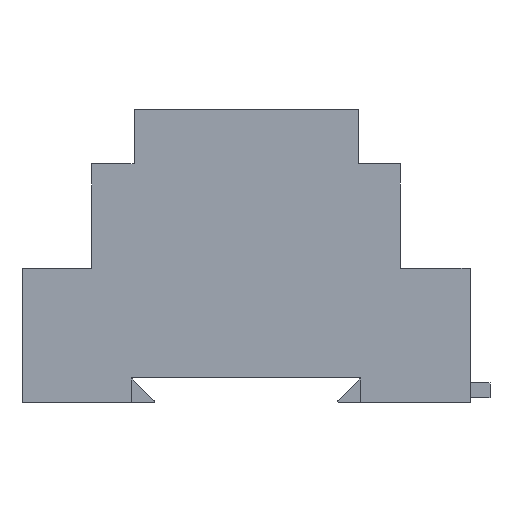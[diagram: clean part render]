
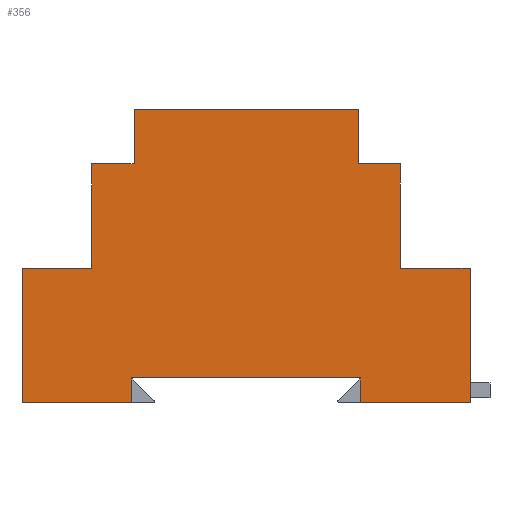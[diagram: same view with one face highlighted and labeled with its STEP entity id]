
A CAD part, left-side view. The second image highlights one B-rep face of the part: STEP entity #356.
In plain terms, the highlighted planar face has unit normal (-1, 0, 0).
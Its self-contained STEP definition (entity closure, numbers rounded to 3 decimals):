
#166 = ORIENTED_EDGE ( 'NONE', *, *, #167, .F. ) ;
#167 = EDGE_CURVE ( 'NONE', #361, #178, #1560, .T. ) ;
#170 = ORIENTED_EDGE ( 'NONE', *, *, #171, .F. ) ;
#171 = EDGE_CURVE ( 'NONE', #172, #182, #1552, .T. ) ;
#172 = VERTEX_POINT ( 'NONE', #1548 ) ;
#173 = ORIENTED_EDGE ( 'NONE', *, *, #174, .T. ) ;
#174 = EDGE_CURVE ( 'NONE', #172, #175, #1547, .T. ) ;
#175 = VERTEX_POINT ( 'NONE', #1542 ) ;
#176 = ORIENTED_EDGE ( 'NONE', *, *, #177, .T. ) ;
#177 = EDGE_CURVE ( 'NONE', #175, #178, #1541, .T. ) ;
#178 = VERTEX_POINT ( 'NONE', #1537 ) ;
#179 = ORIENTED_EDGE ( 'NONE', *, *, #180, .F. ) ;
#180 = EDGE_CURVE ( 'NONE', #182, #184, #1536, .T. ) ;
#182 = VERTEX_POINT ( 'NONE', #1532 ) ;
#183 = EDGE_CURVE ( 'NONE', #184, #406, #1594, .T. ) ;
#184 = VERTEX_POINT ( 'NONE', #1590 ) ;
#185 = ORIENTED_EDGE ( 'NONE', *, *, #183, .F. ) ;
#307 = VERTEX_POINT ( 'NONE', #1770 ) ;
#330 = ORIENTED_EDGE ( 'NONE', *, *, #331, .F. ) ;
#331 = EDGE_CURVE ( 'NONE', #332, #416, #1804, .T. ) ;
#332 = VERTEX_POINT ( 'NONE', #1800 ) ;
#333 = VERTEX_POINT ( 'NONE', #1799 ) ;
#356 = ADVANCED_FACE ( 'NONE', ( #1820 ), #1819, .T. ) ;
#357 = EDGE_LOOP ( 'NONE', ( #358, #362, #408, #410, #411, #414, #330, #393, #395, #398, #401, #404, #185, #179, #170, #173, #176, #166 ) ) ;
#358 = ORIENTED_EDGE ( 'NONE', *, *, #359, .F. ) ;
#359 = EDGE_CURVE ( 'NONE', #360, #361, #1877, .T. ) ;
#360 = VERTEX_POINT ( 'NONE', #1873 ) ;
#361 = VERTEX_POINT ( 'NONE', #1872 ) ;
#362 = ORIENTED_EDGE ( 'NONE', *, *, #407, .T. ) ;
#363 = VERTEX_POINT ( 'NONE', #1871 ) ;
#365 = EDGE_CURVE ( 'NONE', #307, #366, #1870, .T. ) ;
#366 = VERTEX_POINT ( 'NONE', #1866 ) ;
#393 = ORIENTED_EDGE ( 'NONE', *, *, #394, .F. ) ;
#394 = EDGE_CURVE ( 'NONE', #333, #332, #1891, .T. ) ;
#395 = ORIENTED_EDGE ( 'NONE', *, *, #396, .F. ) ;
#396 = EDGE_CURVE ( 'NONE', #397, #333, #1887, .T. ) ;
#397 = VERTEX_POINT ( 'NONE', #1882 ) ;
#398 = ORIENTED_EDGE ( 'NONE', *, *, #399, .F. ) ;
#399 = EDGE_CURVE ( 'NONE', #400, #397, #1883, .T. ) ;
#400 = VERTEX_POINT ( 'NONE', #1939 ) ;
#401 = ORIENTED_EDGE ( 'NONE', *, *, #402, .F. ) ;
#402 = EDGE_CURVE ( 'NONE', #403, #400, #1938, .T. ) ;
#403 = VERTEX_POINT ( 'NONE', #1934 ) ;
#404 = ORIENTED_EDGE ( 'NONE', *, *, #405, .F. ) ;
#405 = EDGE_CURVE ( 'NONE', #406, #403, #1933, .T. ) ;
#406 = VERTEX_POINT ( 'NONE', #1929 ) ;
#407 = EDGE_CURVE ( 'NONE', #360, #363, #1928, .T. ) ;
#408 = ORIENTED_EDGE ( 'NONE', *, *, #409, .F. ) ;
#409 = EDGE_CURVE ( 'NONE', #366, #363, #1923, .T. ) ;
#410 = ORIENTED_EDGE ( 'NONE', *, *, #365, .F. ) ;
#411 = ORIENTED_EDGE ( 'NONE', *, *, #412, .F. ) ;
#412 = EDGE_CURVE ( 'NONE', #413, #307, #1919, .T. ) ;
#413 = VERTEX_POINT ( 'NONE', #1915 ) ;
#414 = ORIENTED_EDGE ( 'NONE', *, *, #415, .F. ) ;
#415 = EDGE_CURVE ( 'NONE', #416, #413, #1914, .T. ) ;
#416 = VERTEX_POINT ( 'NONE', #1974 ) ;
#1532 = CARTESIAN_POINT ( 'NONE',  ( 0., 90., 0. ) ) ;
#1533 = DIRECTION ( 'NONE',  ( 0., 0., 1. ) ) ;
#1534 = VECTOR ( 'NONE', #1533, 1000. ) ;
#1535 = CARTESIAN_POINT ( 'NONE',  ( 0., 90., 0. ) ) ;
#1536 = LINE ( 'NONE', #1535, #1534 ) ;
#1537 = CARTESIAN_POINT ( 'NONE',  ( 0., 68., 5. ) ) ;
#1538 = DIRECTION ( 'NONE',  ( 0., 0., 1. ) ) ;
#1539 = VECTOR ( 'NONE', #1538, 1000. ) ;
#1540 = CARTESIAN_POINT ( 'NONE',  ( 0., 68., -19.554 ) ) ;
#1541 = LINE ( 'NONE', #1540, #1539 ) ;
#1542 = CARTESIAN_POINT ( 'NONE',  ( 0., 68., 0.3 ) ) ;
#1543 = DIRECTION ( 'NONE',  ( 0., 0., 1. ) ) ;
#1544 = DIRECTION ( 'NONE',  ( -1., 0., 0. ) ) ;
#1545 = CARTESIAN_POINT ( 'NONE',  ( 0., 68.3, 0.3 ) ) ;
#1546 = AXIS2_PLACEMENT_3D ( 'NONE', #1545, #1544, #1543 ) ;
#1547 = CIRCLE ( 'NONE', #1546, 0.3 ) ;
#1548 = CARTESIAN_POINT ( 'NONE',  ( 0., 68.3, 0. ) ) ;
#1549 = DIRECTION ( 'NONE',  ( 0., 1., 0. ) ) ;
#1550 = VECTOR ( 'NONE', #1549, 1000. ) ;
#1551 = CARTESIAN_POINT ( 'NONE',  ( 0., 63., 0. ) ) ;
#1552 = LINE ( 'NONE', #1551, #1550 ) ;
#1553 = DIRECTION ( 'NONE',  ( 0., 1., 0. ) ) ;
#1554 = VECTOR ( 'NONE', #1553, 1000. ) ;
#1555 = CARTESIAN_POINT ( 'NONE',  ( 0., 22., 5. ) ) ;
#1560 = LINE ( 'NONE', #1555, #1554 ) ;
#1590 = CARTESIAN_POINT ( 'NONE',  ( 0., 90., 27. ) ) ;
#1591 = DIRECTION ( 'NONE',  ( 0., -1., 0. ) ) ;
#1592 = VECTOR ( 'NONE', #1591, 1000. ) ;
#1593 = CARTESIAN_POINT ( 'NONE',  ( 0., 90., 27. ) ) ;
#1594 = LINE ( 'NONE', #1593, #1592 ) ;
#1770 = CARTESIAN_POINT ( 'NONE',  ( 0., 0., 27. ) ) ;
#1799 = CARTESIAN_POINT ( 'NONE',  ( 0., 22.5, 59. ) ) ;
#1800 = CARTESIAN_POINT ( 'NONE',  ( 0., 22.5, 48. ) ) ;
#1801 = DIRECTION ( 'NONE',  ( 0., -1., 0. ) ) ;
#1802 = VECTOR ( 'NONE', #1801, 1000. ) ;
#1803 = CARTESIAN_POINT ( 'NONE',  ( 0., 14., 48. ) ) ;
#1804 = LINE ( 'NONE', #1803, #1802 ) ;
#1819 = PLANE ( 'NONE',  #1881 ) ;
#1820 = FACE_OUTER_BOUND ( 'NONE', #357, .T. ) ;
#1866 = CARTESIAN_POINT ( 'NONE',  ( 0., 0., 0. ) ) ;
#1867 = DIRECTION ( 'NONE',  ( 0., 0., -1. ) ) ;
#1868 = VECTOR ( 'NONE', #1867, 1000. ) ;
#1869 = CARTESIAN_POINT ( 'NONE',  ( 0., 0., 0. ) ) ;
#1870 = LINE ( 'NONE', #1869, #1868 ) ;
#1871 = CARTESIAN_POINT ( 'NONE',  ( 0., 21.7, 0. ) ) ;
#1872 = CARTESIAN_POINT ( 'NONE',  ( 0., 22., 5. ) ) ;
#1873 = CARTESIAN_POINT ( 'NONE',  ( 0., 22., 0.3 ) ) ;
#1874 = DIRECTION ( 'NONE',  ( 0., 0., 1. ) ) ;
#1875 = VECTOR ( 'NONE', #1874, 1000. ) ;
#1876 = CARTESIAN_POINT ( 'NONE',  ( 0., 22., -19.554 ) ) ;
#1877 = LINE ( 'NONE', #1876, #1875 ) ;
#1878 = DIRECTION ( 'NONE',  ( 0., 0., 1. ) ) ;
#1879 = DIRECTION ( 'NONE',  ( -1., 0., 0. ) ) ;
#1880 = CARTESIAN_POINT ( 'NONE',  ( 0., 22.5, 0. ) ) ;
#1881 = AXIS2_PLACEMENT_3D ( 'NONE', #1880, #1879, #1878 ) ;
#1882 = CARTESIAN_POINT ( 'NONE',  ( 0., 67.5, 59. ) ) ;
#1883 = LINE ( 'NONE', #1942, #1941 ) ;
#1884 = DIRECTION ( 'NONE',  ( 0., -1., 0. ) ) ;
#1885 = VECTOR ( 'NONE', #1884, 1000. ) ;
#1886 = CARTESIAN_POINT ( 'NONE',  ( 0., 22.5, 59. ) ) ;
#1887 = LINE ( 'NONE', #1886, #1885 ) ;
#1888 = DIRECTION ( 'NONE',  ( 0., 0., -1. ) ) ;
#1889 = VECTOR ( 'NONE', #1888, 1000. ) ;
#1890 = CARTESIAN_POINT ( 'NONE',  ( 0., 22.5, 48. ) ) ;
#1891 = LINE ( 'NONE', #1890, #1889 ) ;
#1912 = VECTOR ( 'NONE', #1975, 1000. ) ;
#1913 = CARTESIAN_POINT ( 'NONE',  ( 0., 14., 27. ) ) ;
#1914 = LINE ( 'NONE', #1913, #1912 ) ;
#1915 = CARTESIAN_POINT ( 'NONE',  ( 0., 14., 27. ) ) ;
#1916 = DIRECTION ( 'NONE',  ( 0., -1., 0. ) ) ;
#1917 = VECTOR ( 'NONE', #1916, 1000. ) ;
#1918 = CARTESIAN_POINT ( 'NONE',  ( 0., 0., 27. ) ) ;
#1919 = LINE ( 'NONE', #1918, #1917 ) ;
#1920 = DIRECTION ( 'NONE',  ( 0., 1., 0. ) ) ;
#1921 = VECTOR ( 'NONE', #1920, 1000. ) ;
#1922 = CARTESIAN_POINT ( 'NONE',  ( 0., 27., 0. ) ) ;
#1923 = LINE ( 'NONE', #1922, #1921 ) ;
#1924 = DIRECTION ( 'NONE',  ( 0., 0., 1. ) ) ;
#1925 = DIRECTION ( 'NONE',  ( -1., 0., 0. ) ) ;
#1926 = CARTESIAN_POINT ( 'NONE',  ( 0., 21.7, 0.3 ) ) ;
#1927 = AXIS2_PLACEMENT_3D ( 'NONE', #1926, #1925, #1924 ) ;
#1928 = CIRCLE ( 'NONE', #1927, 0.3 ) ;
#1929 = CARTESIAN_POINT ( 'NONE',  ( 0., 76., 27. ) ) ;
#1930 = DIRECTION ( 'NONE',  ( 0., 0., 1. ) ) ;
#1931 = VECTOR ( 'NONE', #1930, 1000. ) ;
#1932 = CARTESIAN_POINT ( 'NONE',  ( 0., 76., 27. ) ) ;
#1933 = LINE ( 'NONE', #1932, #1931 ) ;
#1934 = CARTESIAN_POINT ( 'NONE',  ( 0., 76., 48. ) ) ;
#1935 = DIRECTION ( 'NONE',  ( 0., -1., 0. ) ) ;
#1936 = VECTOR ( 'NONE', #1935, 1000. ) ;
#1937 = CARTESIAN_POINT ( 'NONE',  ( 0., 76., 48. ) ) ;
#1938 = LINE ( 'NONE', #1937, #1936 ) ;
#1939 = CARTESIAN_POINT ( 'NONE',  ( 0., 67.5, 48. ) ) ;
#1940 = DIRECTION ( 'NONE',  ( 0., 0., 1. ) ) ;
#1941 = VECTOR ( 'NONE', #1940, 1000. ) ;
#1942 = CARTESIAN_POINT ( 'NONE',  ( 0., 67.5, 48. ) ) ;
#1974 = CARTESIAN_POINT ( 'NONE',  ( 0., 14., 48. ) ) ;
#1975 = DIRECTION ( 'NONE',  ( 0., 0., -1. ) ) ;
